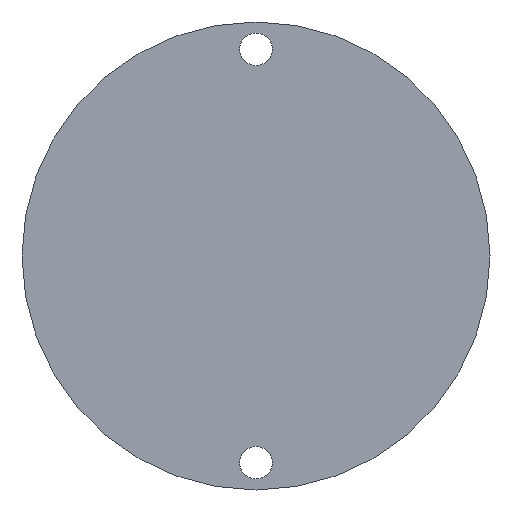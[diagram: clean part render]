
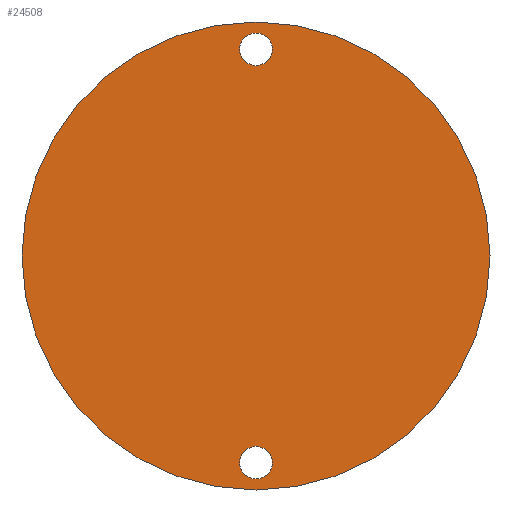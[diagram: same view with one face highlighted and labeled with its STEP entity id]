
A CAD part, front view. The second image highlights one B-rep face of the part: STEP entity #24508.
In plain terms, the highlighted planar face has unit normal (0, -1, 0).
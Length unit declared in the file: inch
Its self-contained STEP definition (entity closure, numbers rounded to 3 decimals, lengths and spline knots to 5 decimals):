
#486 = CARTESIAN_POINT ( 'NONE',  ( 0., 0., 0.774 ) ) ;
#529 = AXIS2_PLACEMENT_3D ( 'NONE', #7040, #22977, #20941 ) ;
#724 = DIRECTION ( 'NONE',  ( 0., 1., 0. ) ) ;
#907 = DIRECTION ( 'NONE',  ( 0., 0., 1. ) ) ;
#1266 = EDGE_CURVE ( 'NONE', #6620, #14031, #25005, .T. ) ;
#1306 = CARTESIAN_POINT ( 'NONE',  ( 0., 0., -0.7175 ) ) ;
#2342 = DIRECTION ( 'NONE',  ( 0., 0., 1. ) ) ;
#2919 = ORIENTED_EDGE ( 'NONE', *, *, #1266, .T. ) ;
#2989 = VERTEX_POINT ( 'NONE', #486 ) ;
#3270 = AXIS2_PLACEMENT_3D ( 'NONE', #7916, #3988, #22763 ) ;
#3361 = DIRECTION ( 'NONE',  ( 0., 1., 0. ) ) ;
#3988 = DIRECTION ( 'NONE',  ( 0., 1., 0. ) ) ;
#4216 = CARTESIAN_POINT ( 'NONE',  ( 0., 0., 0.661 ) ) ;
#4375 = CARTESIAN_POINT ( 'NONE',  ( 0., 0., 0.7175 ) ) ;
#4674 = ORIENTED_EDGE ( 'NONE', *, *, #16046, .T. ) ;
#5179 = CARTESIAN_POINT ( 'NONE',  ( 0., 0., -0.81225 ) ) ;
#5325 = CARTESIAN_POINT ( 'NONE',  ( 0., 0., 0. ) ) ;
#5578 = DIRECTION ( 'NONE',  ( 0., 1., 0. ) ) ;
#5821 = ORIENTED_EDGE ( 'NONE', *, *, #18381, .F. ) ;
#6620 = VERTEX_POINT ( 'NONE', #6704 ) ;
#6704 = CARTESIAN_POINT ( 'NONE',  ( 0., 0., -0.774 ) ) ;
#7040 = CARTESIAN_POINT ( 'NONE',  ( 0., 0., 0. ) ) ;
#7916 = CARTESIAN_POINT ( 'NONE',  ( 0., 0., -0.7175 ) ) ;
#7977 = EDGE_LOOP ( 'NONE', ( #16768, #4674 ) ) ;
#9004 = DIRECTION ( 'NONE',  ( 0., 0., 1. ) ) ;
#9014 = EDGE_CURVE ( 'NONE', #19718, #14336, #24895, .T. ) ;
#9184 = AXIS2_PLACEMENT_3D ( 'NONE', #1306, #3361, #907 ) ;
#9910 = DIRECTION ( 'NONE',  ( 0., 0., 1. ) ) ;
#12193 = EDGE_CURVE ( 'NONE', #14031, #6620, #20936, .T. ) ;
#12656 = DIRECTION ( 'NONE',  ( 0., 1., 0. ) ) ;
#12994 = CARTESIAN_POINT ( 'NONE',  ( 0., 0., 0.81225 ) ) ;
#14031 = VERTEX_POINT ( 'NONE', #17459 ) ;
#14260 = CARTESIAN_POINT ( 'NONE',  ( 0., 0., 0. ) ) ;
#14336 = VERTEX_POINT ( 'NONE', #5179 ) ;
#15092 = ORIENTED_EDGE ( 'NONE', *, *, #9014, .F. ) ;
#15648 = EDGE_LOOP ( 'NONE', ( #5821, #15092 ) ) ;
#16046 = EDGE_CURVE ( 'NONE', #23277, #2989, #22757, .T. ) ;
#16641 = DIRECTION ( 'NONE',  ( 0., 0., 1. ) ) ;
#16689 = AXIS2_PLACEMENT_3D ( 'NONE', #22905, #20861, #16641 ) ;
#16768 = ORIENTED_EDGE ( 'NONE', *, *, #20199, .T. ) ;
#16865 = FACE_OUTER_BOUND ( 'NONE', #15648, .T. ) ;
#16995 = PLANE ( 'NONE',  #529 ) ;
#17398 = FACE_BOUND ( 'NONE', #26697, .T. ) ;
#17459 = CARTESIAN_POINT ( 'NONE',  ( 0., 0., -0.661 ) ) ;
#18381 = EDGE_CURVE ( 'NONE', #14336, #19718, #20197, .T. ) ;
#19447 = FACE_BOUND ( 'NONE', #7977, .T. ) ;
#19718 = VERTEX_POINT ( 'NONE', #12994 ) ;
#20197 = CIRCLE ( 'NONE', #24971, 0.81225 ) ;
#20199 = EDGE_CURVE ( 'NONE', #2989, #23277, #22830, .T. ) ;
#20240 = AXIS2_PLACEMENT_3D ( 'NONE', #4375, #12656, #2342 ) ;
#20861 = DIRECTION ( 'NONE',  ( 0., 1., 0. ) ) ;
#20936 = CIRCLE ( 'NONE', #9184, 0.0565 ) ;
#20941 = DIRECTION ( 'NONE',  ( 1., 0., 0. ) ) ;
#22721 = ORIENTED_EDGE ( 'NONE', *, *, #12193, .T. ) ;
#22757 = CIRCLE ( 'NONE', #16689, 0.0565 ) ;
#22763 = DIRECTION ( 'NONE',  ( 0., 0., 1. ) ) ;
#22830 = CIRCLE ( 'NONE', #20240, 0.0565 ) ;
#22905 = CARTESIAN_POINT ( 'NONE',  ( 0., 0., 0.7175 ) ) ;
#22977 = DIRECTION ( 'NONE',  ( 0., 1., 0. ) ) ;
#23277 = VERTEX_POINT ( 'NONE', #4216 ) ;
#23575 = AXIS2_PLACEMENT_3D ( 'NONE', #5325, #724, #9004 ) ;
#24508 = ADVANCED_FACE ( 'NONE', ( #17398, #19447, #16865 ), #16995, .F. ) ;
#24895 = CIRCLE ( 'NONE', #23575, 0.81225 ) ;
#24971 = AXIS2_PLACEMENT_3D ( 'NONE', #14260, #5578, #9910 ) ;
#25005 = CIRCLE ( 'NONE', #3270, 0.0565 ) ;
#26697 = EDGE_LOOP ( 'NONE', ( #22721, #2919 ) ) ;
